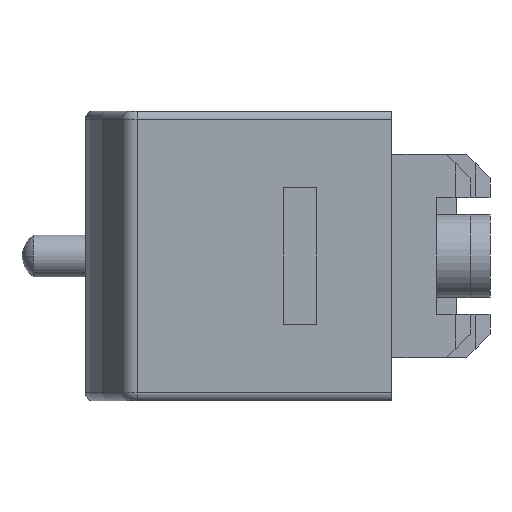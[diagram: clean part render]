
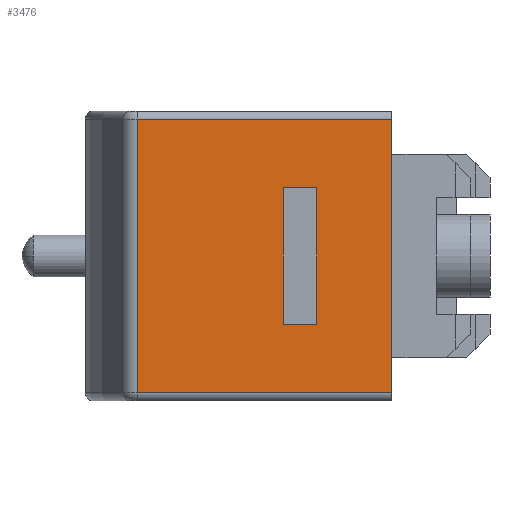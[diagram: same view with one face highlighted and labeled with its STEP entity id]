
A CAD part, left-side view. The second image highlights one B-rep face of the part: STEP entity #3476.
In plain terms, the highlighted planar face has unit normal (-1, 0, 0).
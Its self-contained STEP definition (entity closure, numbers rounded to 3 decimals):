
#3355 = VERTEX_POINT ( 'NONE', #13087 ) ;
#3356 = VERTEX_POINT ( 'NONE', #13086 ) ;
#3357 = ORIENTED_EDGE ( 'NONE', *, *, #3358, .T. ) ;
#3358 = EDGE_CURVE ( 'NONE', #3356, #3359, #13085, .T. ) ;
#3359 = VERTEX_POINT ( 'NONE', #13081 ) ;
#3360 = ORIENTED_EDGE ( 'NONE', *, *, #3361, .T. ) ;
#3361 = EDGE_CURVE ( 'NONE', #3359, #3362, #13080, .T. ) ;
#3362 = VERTEX_POINT ( 'NONE', #13076 ) ;
#3371 = EDGE_CURVE ( 'NONE', #3401, #3372, #13123, .T. ) ;
#3372 = VERTEX_POINT ( 'NONE', #13119 ) ;
#3373 = ORIENTED_EDGE ( 'NONE', *, *, #3374, .F. ) ;
#3374 = EDGE_CURVE ( 'NONE', #3375, #3372, #13118, .T. ) ;
#3375 = VERTEX_POINT ( 'NONE', #13114 ) ;
#3376 = ORIENTED_EDGE ( 'NONE', *, *, #3405, .T. ) ;
#3390 = ORIENTED_EDGE ( 'NONE', *, *, #3391, .T. ) ;
#3391 = EDGE_CURVE ( 'NONE', #3400, #3401, #13147, .T. ) ;
#3400 = VERTEX_POINT ( 'NONE', #13133 ) ;
#3401 = VERTEX_POINT ( 'NONE', #13132 ) ;
#3402 = ORIENTED_EDGE ( 'NONE', *, *, #3371, .T. ) ;
#3405 = EDGE_CURVE ( 'NONE', #3375, #3400, #13190, .T. ) ;
#3406 = EDGE_LOOP ( 'NONE', ( #3407, #3357, #3360, #3428 ) ) ;
#3407 = ORIENTED_EDGE ( 'NONE', *, *, #3408, .T. ) ;
#3408 = EDGE_CURVE ( 'NONE', #3355, #3356, #13186, .T. ) ;
#3424 = EDGE_LOOP ( 'NONE', ( #3390, #3402, #3373, #3376 ) ) ;
#3428 = ORIENTED_EDGE ( 'NONE', *, *, #3429, .T. ) ;
#3429 = EDGE_CURVE ( 'NONE', #3362, #3355, #13222, .T. ) ;
#3476 = ADVANCED_FACE ( 'NONE', ( #13290, #13289 ), #13296, .F. ) ;
#13076 = CARTESIAN_POINT ( 'NONE',  ( -35.2, 2.7, -4.1 ) ) ;
#13077 = DIRECTION ( 'NONE',  ( 0., 1., 0. ) ) ;
#13078 = VECTOR ( 'NONE', #13077, 1000. ) ;
#13079 = CARTESIAN_POINT ( 'NONE',  ( -35.2, 2.7, -4.1 ) ) ;
#13080 = LINE ( 'NONE', #13079, #13078 ) ;
#13081 = CARTESIAN_POINT ( 'NONE',  ( -35.2, 0.7, -4.1 ) ) ;
#13082 = DIRECTION ( 'NONE',  ( 0., 0., -1. ) ) ;
#13083 = VECTOR ( 'NONE', #13082, 1000. ) ;
#13084 = CARTESIAN_POINT ( 'NONE',  ( -35.2, 0.7, 4.1 ) ) ;
#13085 = LINE ( 'NONE', #13084, #13083 ) ;
#13086 = CARTESIAN_POINT ( 'NONE',  ( -35.2, 0.7, 4.1 ) ) ;
#13087 = CARTESIAN_POINT ( 'NONE',  ( -35.2, 2.7, 4.1 ) ) ;
#13114 = CARTESIAN_POINT ( 'NONE',  ( -35.2, -3.8, 8.2 ) ) ;
#13115 = DIRECTION ( 'NONE',  ( 0., 0., -1. ) ) ;
#13116 = VECTOR ( 'NONE', #13115, 1000. ) ;
#13117 = CARTESIAN_POINT ( 'NONE',  ( -35.2, -3.8, 8.7 ) ) ;
#13118 = LINE ( 'NONE', #13117, #13116 ) ;
#13119 = CARTESIAN_POINT ( 'NONE',  ( -35.2, -3.8, -8.2 ) ) ;
#13120 = DIRECTION ( 'NONE',  ( 0., -1., 0. ) ) ;
#13121 = VECTOR ( 'NONE', #13120, 1000. ) ;
#13122 = CARTESIAN_POINT ( 'NONE',  ( -35.2, 11.461, -8.2 ) ) ;
#13123 = LINE ( 'NONE', #13122, #13121 ) ;
#13132 = CARTESIAN_POINT ( 'NONE',  ( -35.2, 11.461, -8.2 ) ) ;
#13133 = CARTESIAN_POINT ( 'NONE',  ( -35.2, 11.461, 8.2 ) ) ;
#13144 = DIRECTION ( 'NONE',  ( 0., 0., -1. ) ) ;
#13145 = VECTOR ( 'NONE', #13144, 1000. ) ;
#13146 = CARTESIAN_POINT ( 'NONE',  ( -35.2, 11.461, 8.7 ) ) ;
#13147 = LINE ( 'NONE', #13146, #13145 ) ;
#13183 = DIRECTION ( 'NONE',  ( 0., -1., 0. ) ) ;
#13184 = VECTOR ( 'NONE', #13183, 1000. ) ;
#13185 = CARTESIAN_POINT ( 'NONE',  ( -35.2, 2.7, 4.1 ) ) ;
#13186 = LINE ( 'NONE', #13185, #13184 ) ;
#13187 = DIRECTION ( 'NONE',  ( 0., 1., 0. ) ) ;
#13188 = VECTOR ( 'NONE', #13187, 1000. ) ;
#13189 = CARTESIAN_POINT ( 'NONE',  ( -35.2, 11.461, 8.2 ) ) ;
#13190 = LINE ( 'NONE', #13189, #13188 ) ;
#13219 = DIRECTION ( 'NONE',  ( 0., 0., 1. ) ) ;
#13220 = VECTOR ( 'NONE', #13219, 1000. ) ;
#13221 = CARTESIAN_POINT ( 'NONE',  ( -35.2, 2.7, 4.1 ) ) ;
#13222 = LINE ( 'NONE', #13221, #13220 ) ;
#13289 = FACE_BOUND ( 'NONE', #3406, .T. ) ;
#13290 = FACE_OUTER_BOUND ( 'NONE', #3424, .T. ) ;
#13291 = AXIS2_PLACEMENT_3D ( 'NONE', #13353, #13352, #13351 ) ;
#13296 = PLANE ( 'NONE',  #13291 ) ;
#13351 = DIRECTION ( 'NONE',  ( 0., 0., -1. ) ) ;
#13352 = DIRECTION ( 'NONE',  ( 1., 0., 0. ) ) ;
#13353 = CARTESIAN_POINT ( 'NONE',  ( -35.2, 11.461, 8.7 ) ) ;
